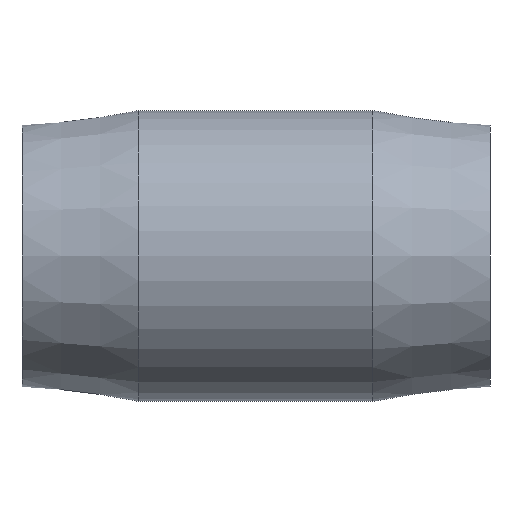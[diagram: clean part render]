
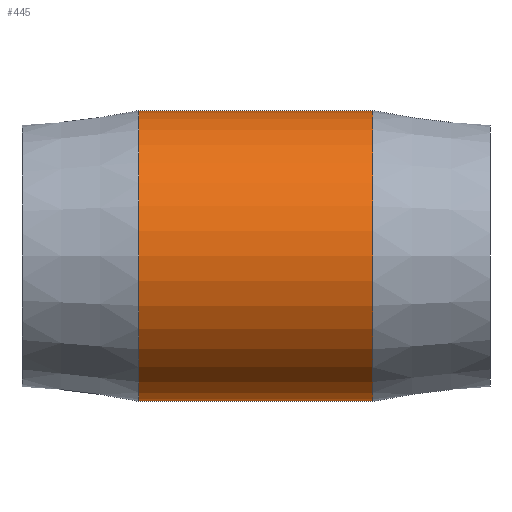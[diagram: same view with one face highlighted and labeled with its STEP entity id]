
A CAD part, front view. The second image highlights one B-rep face of the part: STEP entity #445.
In plain terms, the highlighted cylindrical face has radius 27.94 mm (diameter 55.88 mm), a full revolution.
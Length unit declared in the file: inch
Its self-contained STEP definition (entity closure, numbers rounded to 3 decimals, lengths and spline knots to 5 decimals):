
#43=LINE('',#830,#59);
#59=VECTOR('',#609,1.1);
#73=CYLINDRICAL_SURFACE('',#503,1.1);
#91=FACE_OUTER_BOUND('',#123,.T.);
#123=EDGE_LOOP('',(#333,#334,#335,#336,#337,#338));
#157=CIRCLE('',#504,1.1);
#158=CIRCLE('',#505,1.1);
#159=CIRCLE('',#506,1.1);
#160=CIRCLE('',#507,1.1);
#203=VERTEX_POINT('',#825);
#204=VERTEX_POINT('',#826);
#205=VERTEX_POINT('',#829);
#206=VERTEX_POINT('',#831);
#255=EDGE_CURVE('',#203,#204,#157,.T.);
#256=EDGE_CURVE('',#204,#203,#158,.T.);
#257=EDGE_CURVE('',#204,#205,#43,.T.);
#258=EDGE_CURVE('',#205,#206,#159,.T.);
#259=EDGE_CURVE('',#206,#205,#160,.T.);
#333=ORIENTED_EDGE('',*,*,#255,.F.);
#334=ORIENTED_EDGE('',*,*,#256,.F.);
#335=ORIENTED_EDGE('',*,*,#257,.T.);
#336=ORIENTED_EDGE('',*,*,#258,.T.);
#337=ORIENTED_EDGE('',*,*,#259,.T.);
#338=ORIENTED_EDGE('',*,*,#257,.F.);
#445=ADVANCED_FACE('',(#91),#73,.T.);
#503=AXIS2_PLACEMENT_3D('',#824,#603,#604);
#504=AXIS2_PLACEMENT_3D('',#827,#605,#606);
#505=AXIS2_PLACEMENT_3D('',#828,#607,#608);
#506=AXIS2_PLACEMENT_3D('',#832,#610,#611);
#507=AXIS2_PLACEMENT_3D('',#833,#612,#613);
#603=DIRECTION('center_axis',(1.,0.,0.));
#604=DIRECTION('ref_axis',(0.,1.,0.));
#605=DIRECTION('center_axis',(1.,0.,0.));
#606=DIRECTION('ref_axis',(0.,0.,-1.));
#607=DIRECTION('center_axis',(1.,0.,0.));
#608=DIRECTION('ref_axis',(0.,0.,-1.));
#609=DIRECTION('',(-1.,0.,0.));
#610=DIRECTION('center_axis',(1.,0.,0.));
#611=DIRECTION('ref_axis',(0.,0.,-1.));
#612=DIRECTION('center_axis',(1.,0.,0.));
#613=DIRECTION('ref_axis',(0.,0.,-1.));
#824=CARTESIAN_POINT('Origin',(0.,0.,0.));
#825=CARTESIAN_POINT('',(0.885,1.1,0.));
#826=CARTESIAN_POINT('',(0.885,-1.1,0.));
#827=CARTESIAN_POINT('Origin',(0.885,0.,0.));
#828=CARTESIAN_POINT('Origin',(0.885,0.,0.));
#829=CARTESIAN_POINT('',(-0.885,-1.1,0.));
#830=CARTESIAN_POINT('',(0.,-1.1,0.));
#831=CARTESIAN_POINT('',(-0.885,1.1,0.));
#832=CARTESIAN_POINT('Origin',(-0.885,0.,0.));
#833=CARTESIAN_POINT('Origin',(-0.885,0.,0.));
